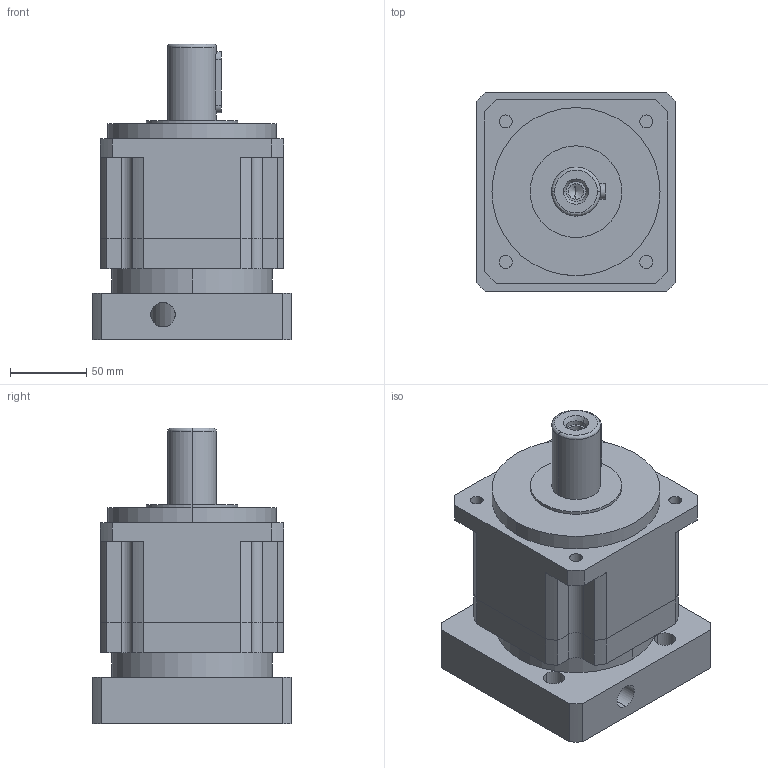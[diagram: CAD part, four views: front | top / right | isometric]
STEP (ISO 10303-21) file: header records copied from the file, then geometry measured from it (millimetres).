
FILE_DESCRIPTION (( 'STEP AP203' ), '1' );
FILE_NAME ('PAG120-L1-24-110-145.STEP', '2023-07-08T08:47:18', ( 'Windows User' ), ( 'P R C' ), 'SwSTEP 2.0', 'SolidWorks 2016', '' );
FILE_SCHEMA (( 'CONFIG_CONTROL_DESIGN' ));
Length unit declared in the file: millimetre
Products named in the file (7): 邧埴瑩 10x8x40; 粣創-6009 45x75x16; PAG120-本体齿圈; PAG120-L1-24-110-145; PAG120-薊粣ん_LZ03; PAG120-帣釱; 囀鞠褒蹟佪-M8℅25
Assembly tree (6 placements, depth 2):
  PAG120-L1-24-110-145
    PAG120-本体齿圈
    PAG120-薊粣ん_LZ03
    PAG120-帣釱
    囀鞠褒蹟佪-M8℅25
    邧埴瑩 10x8x40
    粣創-6009 45x75x16
Bounding box: 130 x 130 x 193.5 mm (x, y, z)
Volume: 1660207.7 mm3; surface area: 215336.9 mm2
Topology: 6 solids, 6 shells, 1013 faces, 2788 edges, 1838 vertices
Faces by surface type: plane 572, bspline 260, cylinder 165, cone 16
Entity records: 42871 total; most frequent: CARTESIAN_POINT 17903, ORIENTED_EDGE 5548, DIRECTION 4196, EDGE_CURVE 2774, VERTEX_POINT 1834, LINE 1638, VECTOR 1638, AXIS2_PLACEMENT_3D 1279
